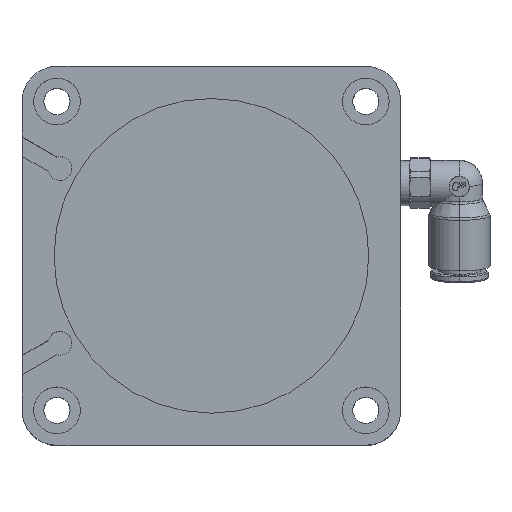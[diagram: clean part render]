
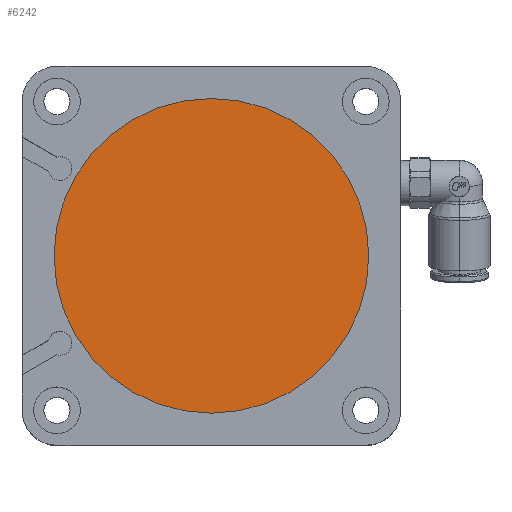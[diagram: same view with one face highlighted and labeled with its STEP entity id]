
A CAD part, top view. The second image highlights one B-rep face of the part: STEP entity #6242.
In plain terms, the highlighted planar face has unit normal (0, 0, 1).
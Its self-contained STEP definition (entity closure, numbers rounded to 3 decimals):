
#124 = FACE_OUTER_BOUND ( 'NONE', #4421, .T. ) ;
#295 = CARTESIAN_POINT ( 'NONE',  ( 0., 0., 110.8 ) ) ;
#1946 = ORIENTED_EDGE ( 'NONE', *, *, #6208, .T. ) ;
#2311 = CARTESIAN_POINT ( 'NONE',  ( -27., 0., 110.8 ) ) ;
#2714 = DIRECTION ( 'NONE',  ( 1., 0., 0. ) ) ;
#2920 = AXIS2_PLACEMENT_3D ( 'NONE', #5843, #5154, #2714 ) ;
#3551 = EDGE_CURVE ( 'NONE', #4142, #4684, #4188, .T. ) ;
#3853 = DIRECTION ( 'NONE',  ( 1., 0., 0. ) ) ;
#3923 = DIRECTION ( 'NONE',  ( 0., 0., 1. ) ) ;
#4142 = VERTEX_POINT ( 'NONE', #2311 ) ;
#4188 = CIRCLE ( 'NONE', #5093, 27. ) ;
#4421 = EDGE_LOOP ( 'NONE', ( #1946, #5113 ) ) ;
#4684 = VERTEX_POINT ( 'NONE', #7066 ) ;
#5093 = AXIS2_PLACEMENT_3D ( 'NONE', #295, #7532, #5114 ) ;
#5113 = ORIENTED_EDGE ( 'NONE', *, *, #3551, .T. ) ;
#5114 = DIRECTION ( 'NONE',  ( 1., 0., 0. ) ) ;
#5154 = DIRECTION ( 'NONE',  ( 0., 0., 1. ) ) ;
#5193 = PLANE ( 'NONE',  #6290 ) ;
#5843 = CARTESIAN_POINT ( 'NONE',  ( 0., 0., 110.8 ) ) ;
#6208 = EDGE_CURVE ( 'NONE', #4684, #4142, #6681, .T. ) ;
#6242 = ADVANCED_FACE ( 'NONE', ( #124 ), #5193, .T. ) ;
#6290 = AXIS2_PLACEMENT_3D ( 'NONE', #7678, #3923, #3853 ) ;
#6681 = CIRCLE ( 'NONE', #2920, 27. ) ;
#7066 = CARTESIAN_POINT ( 'NONE',  ( 27., 0., 110.8 ) ) ;
#7532 = DIRECTION ( 'NONE',  ( 0., 0., 1. ) ) ;
#7678 = CARTESIAN_POINT ( 'NONE',  ( 0., 0., 110.8 ) ) ;
